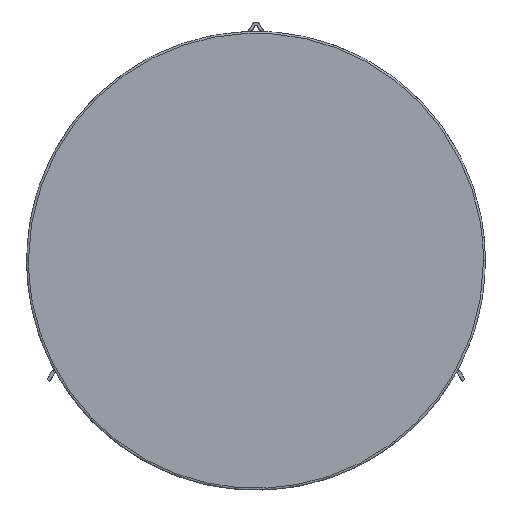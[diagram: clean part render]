
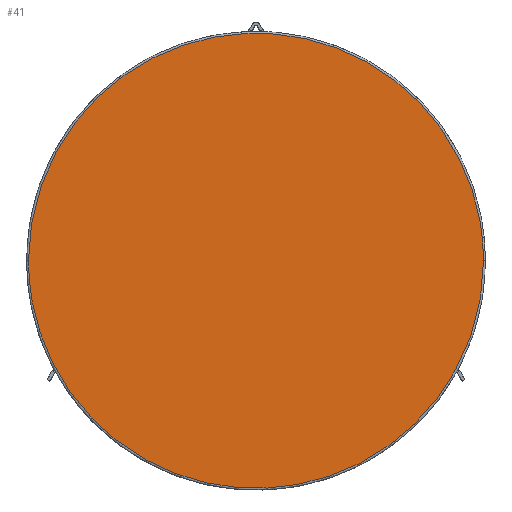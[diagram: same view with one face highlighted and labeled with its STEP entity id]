
A CAD part, top view. The second image highlights one B-rep face of the part: STEP entity #41.
In plain terms, the highlighted planar face has unit normal (0, 0, 1).
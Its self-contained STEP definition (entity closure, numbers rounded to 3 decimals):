
#41=ADVANCED_FACE('',(#71),#480,.T.);
#71=FACE_OUTER_BOUND('',#101,.T.);
#101=EDGE_LOOP('',(#232,#233));
#232=ORIENTED_EDGE('',*,*,#327,.F.);
#233=ORIENTED_EDGE('',*,*,#319,.F.);
#319=EDGE_CURVE('',#446,#450,#369,.T.);
#327=EDGE_CURVE('',#450,#446,#377,.T.);
#369=(
BOUNDED_CURVE()
B_SPLINE_CURVE(2,(#918,#919,#920,#921,#922),.UNSPECIFIED.,.F.,.F.)
B_SPLINE_CURVE_WITH_KNOTS((3,2,3),(0.,576.482,1152.964),
 .UNSPECIFIED.)
CURVE()
GEOMETRIC_REPRESENTATION_ITEM()
RATIONAL_B_SPLINE_CURVE((1.,0.707,1.,0.707,1.))
REPRESENTATION_ITEM('')
);
#377=(
BOUNDED_CURVE()
B_SPLINE_CURVE(2,(#951,#952,#953,#954,#955),.UNSPECIFIED.,.F.,.F.)
B_SPLINE_CURVE_WITH_KNOTS((3,2,3),(1152.964,1729.446,2305.928),
 .UNSPECIFIED.)
CURVE()
GEOMETRIC_REPRESENTATION_ITEM()
RATIONAL_B_SPLINE_CURVE((1.,0.707,1.,0.707,1.))
REPRESENTATION_ITEM('')
);
#446=VERTEX_POINT('',#902);
#450=VERTEX_POINT('',#906);
#480=PLANE('',#512);
#512=AXIS2_PLACEMENT_3D('',#828,#527,$);
#527=DIRECTION('',(0.,0.,1.));
#828=CARTESIAN_POINT('',(462.5,-462.5,290.));
#902=CARTESIAN_POINT('',(367.,0.,290.));
#906=CARTESIAN_POINT('',(-367.,0.,290.));
#918=CARTESIAN_POINT('',(367.,0.,290.));
#919=CARTESIAN_POINT('',(367.,-367.,290.));
#920=CARTESIAN_POINT('',(0.,-367.,290.));
#921=CARTESIAN_POINT('',(-367.,-367.,290.));
#922=CARTESIAN_POINT('',(-367.,0.,290.));
#951=CARTESIAN_POINT('',(-367.,0.,290.));
#952=CARTESIAN_POINT('',(-367.,367.,290.));
#953=CARTESIAN_POINT('',(0.,367.,290.));
#954=CARTESIAN_POINT('',(367.,367.,290.));
#955=CARTESIAN_POINT('',(367.,0.,290.));
